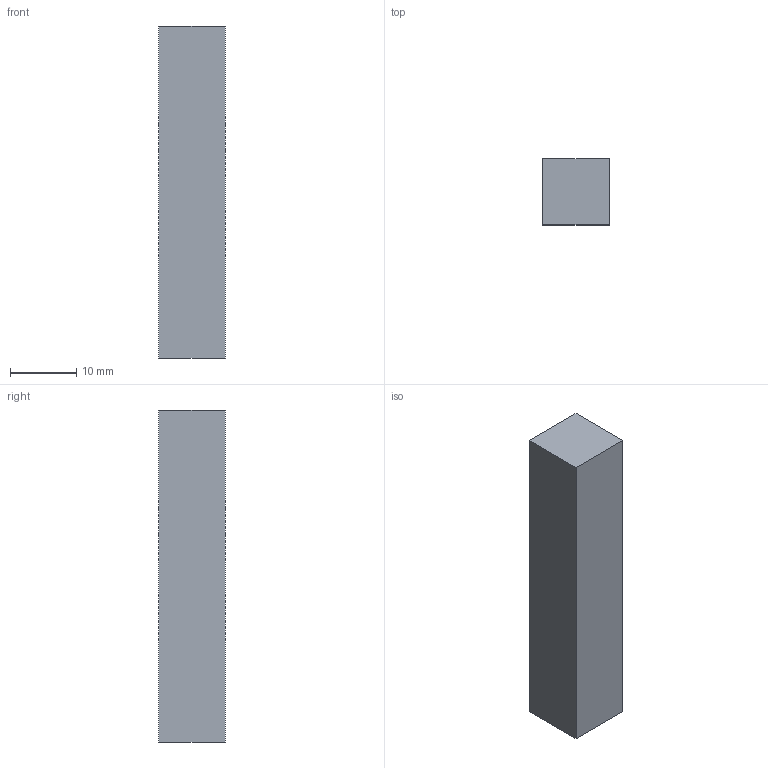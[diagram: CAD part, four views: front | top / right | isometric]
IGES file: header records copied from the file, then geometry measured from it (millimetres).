
Start section: DESIGNBASE IGES
Global section: file name: C:\CAD\FEM\MagTest\Test1\soft.igs; native system: RICOH DESIGNBASE V13; preprocessor: IGES PREPROCESSOR V13; author: unknown; organization: unknown; date: 20150705.170705; units: metre
Bounding box: 10 x 10 x 50 mm (x, y, z)
Volume: 5000 mm3; surface area: 2200 mm2
Topology: 1 solids, 1 shells, 6 faces, 12 edges, 8 vertices
Faces by surface type: bspline 6
